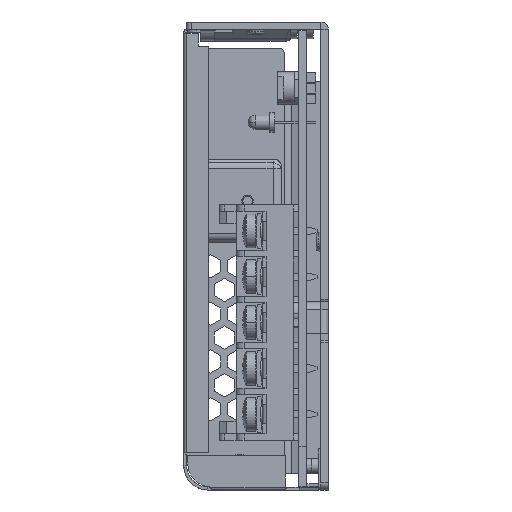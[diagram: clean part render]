
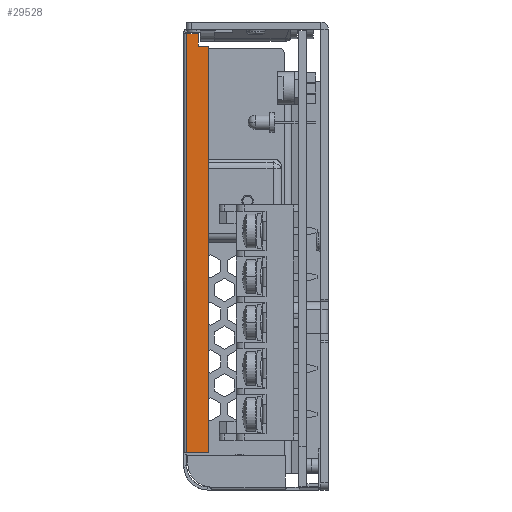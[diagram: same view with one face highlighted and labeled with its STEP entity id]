
A CAD part, left-side view. The second image highlights one B-rep face of the part: STEP entity #29528.
In plain terms, the highlighted planar face has unit normal (-1, 0, 0).
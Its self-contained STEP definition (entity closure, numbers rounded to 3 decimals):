
#965 = VERTEX_POINT ( 'NONE', #52128 ) ;
#1601 = CARTESIAN_POINT ( 'NONE',  ( -40.459, 11.008, 58.19 ) ) ;
#4652 = AXIS2_PLACEMENT_3D ( 'NONE', #73463, #45114, #23007 ) ;
#5641 = ORIENTED_EDGE ( 'NONE', *, *, #9895, .F. ) ;
#6598 = CARTESIAN_POINT ( 'NONE',  ( -40.459, 8.608, 142.49 ) ) ;
#7347 = CARTESIAN_POINT ( 'NONE',  ( -40.459, 6.408, 58.19 ) ) ;
#9895 = EDGE_CURVE ( 'NONE', #12288, #29255, #87737, .T. ) ;
#10244 = LINE ( 'NONE', #1601, #10922 ) ;
#10297 = LINE ( 'NONE', #39586, #40544 ) ;
#10724 = VERTEX_POINT ( 'NONE', #34679 ) ;
#10922 = VECTOR ( 'NONE', #39054, 1000. ) ;
#11709 = EDGE_CURVE ( 'NONE', #93667, #56529, #10244, .T. ) ;
#12288 = VERTEX_POINT ( 'NONE', #6598 ) ;
#12768 = ORIENTED_EDGE ( 'NONE', *, *, #66404, .F. ) ;
#14890 = LINE ( 'NONE', #29283, #91348 ) ;
#18774 = CARTESIAN_POINT ( 'NONE',  ( -40.459, 6.408, 142.49 ) ) ;
#21916 = CARTESIAN_POINT ( 'NONE',  ( -40.459, 6.408, 142.49 ) ) ;
#23007 = DIRECTION ( 'NONE',  ( 0., 0., 1. ) ) ;
#24518 = ORIENTED_EDGE ( 'NONE', *, *, #33779, .F. ) ;
#25955 = DIRECTION ( 'NONE',  ( 0., -1., 0. ) ) ;
#29255 = VERTEX_POINT ( 'NONE', #18774 ) ;
#29283 = CARTESIAN_POINT ( 'NONE',  ( -40.459, 8.608, 142.49 ) ) ;
#29528 = ADVANCED_FACE ( 'NONE', ( #49020 ), #66739, .T. ) ;
#32365 = DIRECTION ( 'NONE',  ( 0., 0., -1. ) ) ;
#33439 = ORIENTED_EDGE ( 'NONE', *, *, #11709, .F. ) ;
#33779 = EDGE_CURVE ( 'NONE', #10724, #965, #91799, .T. ) ;
#34679 = CARTESIAN_POINT ( 'NONE',  ( -40.459, 11.008, 145.09 ) ) ;
#38622 = EDGE_LOOP ( 'NONE', ( #12768, #33439, #48428, #5641, #46561, #24518 ) ) ;
#39054 = DIRECTION ( 'NONE',  ( 0., 1., 0. ) ) ;
#39586 = CARTESIAN_POINT ( 'NONE',  ( -40.459, 6.408, 58.19 ) ) ;
#40544 = VECTOR ( 'NONE', #32365, 1000. ) ;
#43841 = VECTOR ( 'NONE', #25955, 1000. ) ;
#44176 = DIRECTION ( 'NONE',  ( 0., 0., -1. ) ) ;
#45114 = DIRECTION ( 'NONE',  ( -1., 0., 0. ) ) ;
#46561 = ORIENTED_EDGE ( 'NONE', *, *, #82688, .F. ) ;
#47778 = CARTESIAN_POINT ( 'NONE',  ( -40.459, 11.008, 58.19 ) ) ;
#48428 = ORIENTED_EDGE ( 'NONE', *, *, #74433, .F. ) ;
#49020 = FACE_OUTER_BOUND ( 'NONE', #38622, .T. ) ;
#50328 = VECTOR ( 'NONE', #65634, 1000. ) ;
#52128 = CARTESIAN_POINT ( 'NONE',  ( -40.459, 8.608, 145.09 ) ) ;
#55259 = CARTESIAN_POINT ( 'NONE',  ( -40.459, 8.608, 145.09 ) ) ;
#56529 = VERTEX_POINT ( 'NONE', #47778 ) ;
#61266 = VECTOR ( 'NONE', #75756, 1000. ) ;
#65634 = DIRECTION ( 'NONE',  ( 0., -1., 0. ) ) ;
#66404 = EDGE_CURVE ( 'NONE', #56529, #10724, #88326, .T. ) ;
#66739 = PLANE ( 'NONE',  #4652 ) ;
#67159 = CARTESIAN_POINT ( 'NONE',  ( -40.459, 11.008, 145.09 ) ) ;
#73463 = CARTESIAN_POINT ( 'NONE',  ( -40.459, 11.608, 50.49 ) ) ;
#74433 = EDGE_CURVE ( 'NONE', #29255, #93667, #10297, .T. ) ;
#75756 = DIRECTION ( 'NONE',  ( 0., 0., 1. ) ) ;
#82688 = EDGE_CURVE ( 'NONE', #965, #12288, #14890, .T. ) ;
#87737 = LINE ( 'NONE', #21916, #50328 ) ;
#88326 = LINE ( 'NONE', #67159, #61266 ) ;
#91348 = VECTOR ( 'NONE', #44176, 1000. ) ;
#91799 = LINE ( 'NONE', #55259, #43841 ) ;
#93667 = VERTEX_POINT ( 'NONE', #7347 ) ;
